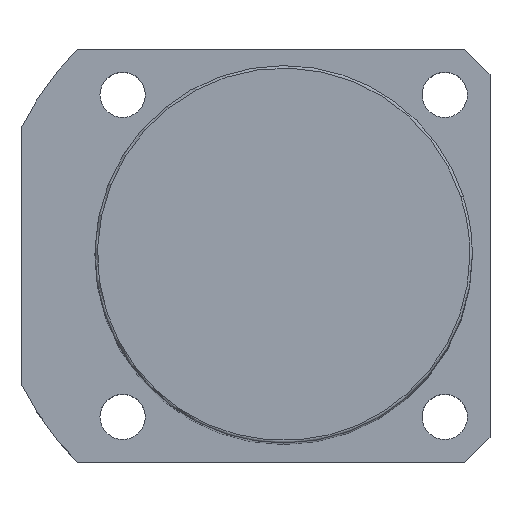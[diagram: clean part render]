
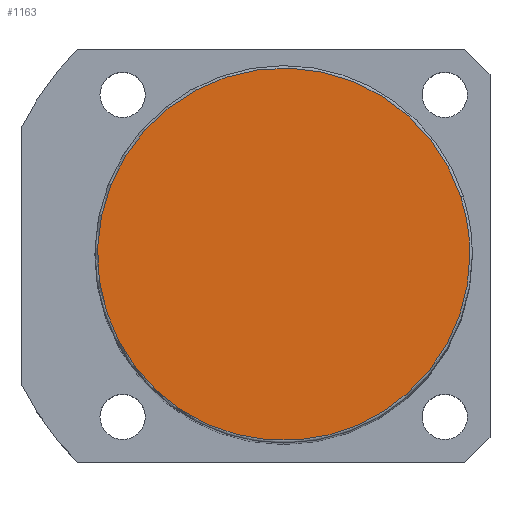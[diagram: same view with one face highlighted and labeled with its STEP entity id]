
A CAD part, top view. The second image highlights one B-rep face of the part: STEP entity #1163.
In plain terms, the highlighted planar face has unit normal (0, 0, 1).
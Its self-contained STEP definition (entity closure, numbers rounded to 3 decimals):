
#1129=CARTESIAN_POINT('',(37.0,0.0,193.0));
#1130=VERTEX_POINT('',#1129);
#1131=CARTESIAN_POINT('',(35.189,11.434,193.0));
#1132=VERTEX_POINT('',#1131);
#1133=CARTESIAN_POINT('',(0.0,0.0,193.0));
#1134=DIRECTION('',(0.0,0.0,1.0));
#1135=DIRECTION('',(1.0,0.0,0.0));
#1136=AXIS2_PLACEMENT_3D('',#1133,#1134,#1135);
#1137=CIRCLE('',#1136,37.0);
#1138=EDGE_CURVE('no 1720',#1130,#1132,#1137,.T.);
#1139=ORIENTED_EDGE('',*,*,#1138,.T.);
#1140=CARTESIAN_POINT('',(-35.189,-11.434,193.0));
#1141=VERTEX_POINT('',#1140);
#1142=CARTESIAN_POINT('',(0.0,0.0,193.0));
#1143=DIRECTION('',(0.0,0.0,1.0));
#1144=DIRECTION('',(1.0,0.0,0.0));
#1145=AXIS2_PLACEMENT_3D('',#1142,#1143,#1144);
#1146=CIRCLE('',#1145,37.0);
#1147=EDGE_CURVE('no 1726',#1132,#1141,#1146,.T.);
#1148=ORIENTED_EDGE('',*,*,#1147,.T.);
#1149=CARTESIAN_POINT('',(0.0,0.0,193.0));
#1150=DIRECTION('',(0.0,0.0,1.0));
#1151=DIRECTION('',(1.0,0.0,0.0));
#1152=AXIS2_PLACEMENT_3D('',#1149,#1150,#1151);
#1153=CIRCLE('',#1152,37.0);
#1154=EDGE_CURVE('no 1730',#1141,#1130,#1153,.T.);
#1155=ORIENTED_EDGE('',*,*,#1154,.T.);
#1156=EDGE_LOOP('',(#1139,#1148,#1155));
#1157=FACE_OUTER_BOUND('',#1156,.T.);
#1158=CARTESIAN_POINT('',(0.0,0.0,193.0));
#1159=DIRECTION('',(0.0,0.0,1.0));
#1160=DIRECTION('',(1.0,0.0,0.0));
#1161=AXIS2_PLACEMENT_3D('',#1158,#1159,#1160);
#1162=PLANE('',#1161);
#1163=ADVANCED_FACE('no 1711',(#1157),#1162,.T.);
